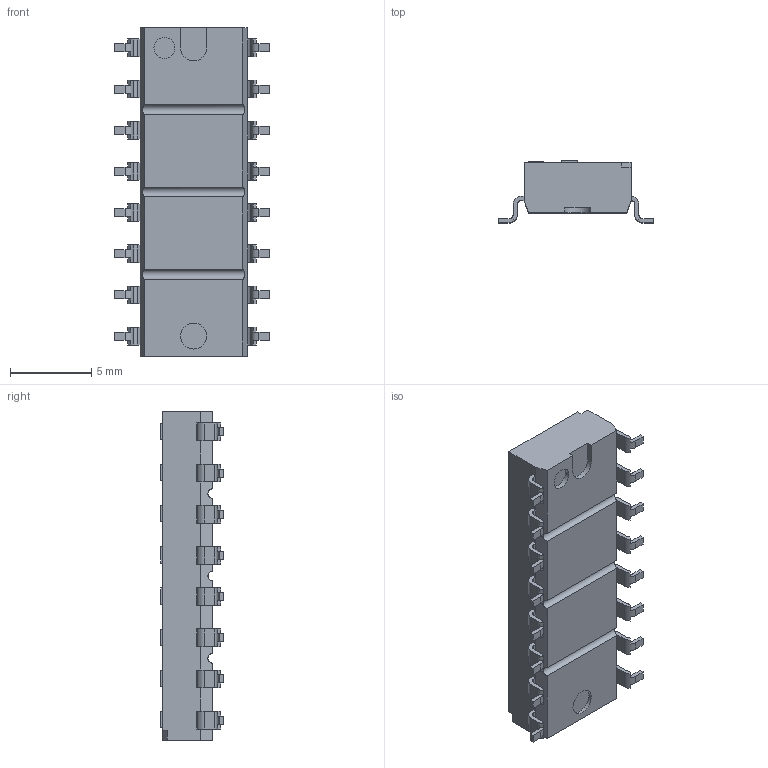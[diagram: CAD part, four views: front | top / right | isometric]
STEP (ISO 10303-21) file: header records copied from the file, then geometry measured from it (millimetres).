
FILE_DESCRIPTION((''),'2;1');
FILE_NAME('ESD108L06KS_ASM','2017-05-09T',('a13152'),(''),'PRO/ENGINEER BY PARAMETRIC TECHNOLOGY CORPORATION, 2010280','PRO/ENGINEER BY PARAMETRIC TECHNOLOGY CORPORATION, 2010280','');
FILE_SCHEMA(('CONFIG_CONTROL_DESIGN'));
Length unit declared in the file: millimetre
Products named in the file (1): ESD108L06KS_ASM
Bounding box: 9.6 x 3.83 x 20.26 mm (x, y, z)
Volume: 392.2 mm3; surface area: 638.7 mm2
Topology: 1 solids, 3 shells, 861 faces, 2383 edges, 1578 vertices
Faces by surface type: plane 771, cylinder 90
Entity records: 27156 total; most frequent: CARTESIAN_POINT 4877, ORIENTED_EDGE 4766, DIRECTION 4337, EDGE_CURVE 2383, VECTOR 2139, LINE 2139, VERTEX_POINT 1578, AXIS2_PLACEMENT_3D 1099
